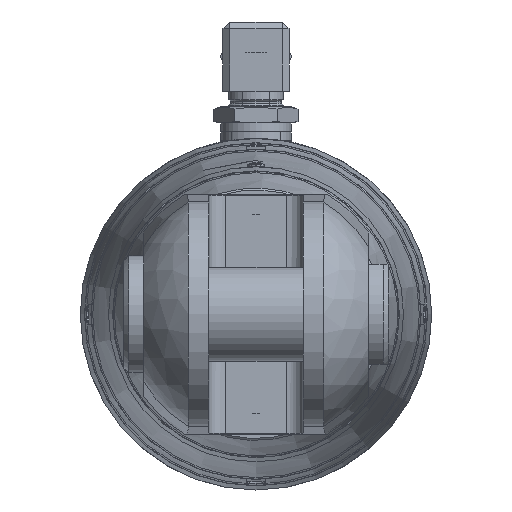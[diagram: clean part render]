
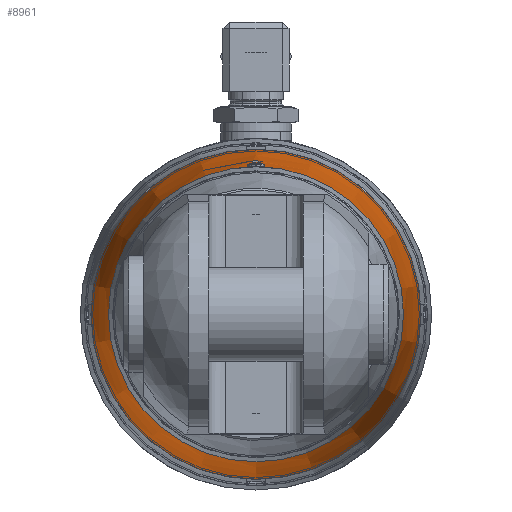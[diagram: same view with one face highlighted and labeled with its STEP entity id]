
A CAD part, left-side view. The second image highlights one B-rep face of the part: STEP entity #8961.
In plain terms, the highlighted conical face has half-angle 5 degrees and reference radius 47.66 mm.
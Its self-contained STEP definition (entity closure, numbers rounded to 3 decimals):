
#109=CONICAL_SURFACE('',#9791,47.66,0.087);
#969=LINE('',#15487,#1546);
#1546=VECTOR('',#11757,47.66);
#2286=FACE_BOUND('',#3189,.T.);
#2656=FACE_OUTER_BOUND('',#3188,.T.);
#3188=EDGE_LOOP('',(#7650,#7651,#7652,#7653,#7654,#7655));
#3189=EDGE_LOOP('',(#7656,#7657));
#3666=CIRCLE('',#9792,50.275);
#3667=CIRCLE('',#9793,50.275);
#3668=CIRCLE('',#9794,45.);
#3669=CIRCLE('',#9795,45.);
#3858=B_SPLINE_CURVE_WITH_KNOTS('',3,(#15493,#15494,#15495,#15496,#15497,
#15498,#15499,#15500,#15501,#15502),.UNSPECIFIED.,.F.,.F.,(4,2,2,2,4),(0.,
0.079,0.158,0.237,0.316),
 .UNSPECIFIED.);
#3859=B_SPLINE_CURVE_WITH_KNOTS('',3,(#15503,#15504,#15505,#15506,#15507,
#15508,#15509,#15510,#15511,#15512,#15513,#15514,#15515,#15516,#15517,#15518,
#15519,#15520,#15521,#15522,#15523,#15524,#15525,#15526,#15527,#15528),
 .UNSPECIFIED.,.F.,.F.,(4,2,2,2,2,2,2,2,2,2,2,2,4),(0.316,0.395,
0.474,0.553,0.632,0.712,
0.791,0.871,0.95,1.03,1.109,
1.189,1.268),.UNSPECIFIED.);
#4418=VERTEX_POINT('',#15482);
#4419=VERTEX_POINT('',#15483);
#4420=VERTEX_POINT('',#15486);
#4421=VERTEX_POINT('',#15488);
#4422=VERTEX_POINT('',#15491);
#4423=VERTEX_POINT('',#15492);
#5547=EDGE_CURVE('',#4418,#4419,#3666,.T.);
#5548=EDGE_CURVE('',#4419,#4418,#3667,.T.);
#5549=EDGE_CURVE('',#4419,#4420,#969,.T.);
#5550=EDGE_CURVE('',#4421,#4420,#3668,.T.);
#5551=EDGE_CURVE('',#4420,#4421,#3669,.T.);
#5552=EDGE_CURVE('',#4422,#4423,#3858,.T.);
#5553=EDGE_CURVE('',#4423,#4422,#3859,.T.);
#7650=ORIENTED_EDGE('',*,*,#5547,.F.);
#7651=ORIENTED_EDGE('',*,*,#5548,.F.);
#7652=ORIENTED_EDGE('',*,*,#5549,.T.);
#7653=ORIENTED_EDGE('',*,*,#5550,.F.);
#7654=ORIENTED_EDGE('',*,*,#5551,.F.);
#7655=ORIENTED_EDGE('',*,*,#5549,.F.);
#7656=ORIENTED_EDGE('',*,*,#5552,.T.);
#7657=ORIENTED_EDGE('',*,*,#5553,.T.);
#8961=ADVANCED_FACE('',(#2656,#2286),#109,.T.);
#9791=AXIS2_PLACEMENT_3D('',#15481,#11751,#11752);
#9792=AXIS2_PLACEMENT_3D('',#15484,#11753,#11754);
#9793=AXIS2_PLACEMENT_3D('',#15485,#11755,#11756);
#9794=AXIS2_PLACEMENT_3D('',#15489,#11758,#11759);
#9795=AXIS2_PLACEMENT_3D('',#15490,#11760,#11761);
#11751=DIRECTION('center_axis',(1.,0.,0.));
#11752=DIRECTION('ref_axis',(0.,0.,
1.));
#11753=DIRECTION('center_axis',(1.,0.,0.));
#11754=DIRECTION('ref_axis',(0.,0.,
-1.));
#11755=DIRECTION('center_axis',(1.,0.,0.));
#11756=DIRECTION('ref_axis',(0.,0.,
-1.));
#11757=DIRECTION('',(-0.996,0.,0.087));
#11758=DIRECTION('center_axis',(-1.,0.,0.));
#11759=DIRECTION('ref_axis',(0.,0.,
-1.));
#11760=DIRECTION('center_axis',(-1.,0.,0.));
#11761=DIRECTION('ref_axis',(0.,0.,
-1.));
#15481=CARTESIAN_POINT('Origin',(-678.398,0.,
0.));
#15482=CARTESIAN_POINT('',(-648.498,0.,50.275));
#15483=CARTESIAN_POINT('',(-648.498,0.,-50.275));
#15484=CARTESIAN_POINT('Origin',(-648.498,0.,
0.));
#15485=CARTESIAN_POINT('Origin',(-648.498,0.,
0.));
#15486=CARTESIAN_POINT('',(-708.796,0.,-45.));
#15487=CARTESIAN_POINT('',(-678.398,0.,-47.659));
#15488=CARTESIAN_POINT('',(-708.796,0.,45.));
#15489=CARTESIAN_POINT('Origin',(-708.796,0.,
0.));
#15490=CARTESIAN_POINT('Origin',(-708.796,0.,
0.));
#15491=CARTESIAN_POINT('',(-690.508,-2.1,46.553));
#15492=CARTESIAN_POINT('',(-692.6,0.,46.417));
#15493=CARTESIAN_POINT('Ctrl Pts',(-690.508,-2.1,
46.553));
#15494=CARTESIAN_POINT('Ctrl Pts',(-690.771,-2.099,
46.53));
#15495=CARTESIAN_POINT('Ctrl Pts',(-691.051,-2.046,46.508));
#15496=CARTESIAN_POINT('Ctrl Pts',(-691.567,-1.83,
46.471));
#15497=CARTESIAN_POINT('Ctrl Pts',(-691.803,-1.668,46.457));
#15498=CARTESIAN_POINT('Ctrl Pts',(-692.174,-1.295,
46.437));
#15499=CARTESIAN_POINT('Ctrl Pts',(-692.334,-1.06,
46.429));
#15500=CARTESIAN_POINT('Ctrl Pts',(-692.548,-0.543,
46.419));
#15501=CARTESIAN_POINT('Ctrl Pts',(-692.6,-0.263,46.417));
#15502=CARTESIAN_POINT('Ctrl Pts',(-692.6,0.,46.417));
#15503=CARTESIAN_POINT('Ctrl Pts',(-692.6,0.,46.417));
#15504=CARTESIAN_POINT('Ctrl Pts',(-692.6,0.263,46.417));
#15505=CARTESIAN_POINT('Ctrl Pts',(-692.548,0.543,
46.419));
#15506=CARTESIAN_POINT('Ctrl Pts',(-692.334,1.06,46.429));
#15507=CARTESIAN_POINT('Ctrl Pts',(-692.174,1.295,46.437));
#15508=CARTESIAN_POINT('Ctrl Pts',(-691.803,1.668,46.457));
#15509=CARTESIAN_POINT('Ctrl Pts',(-691.567,1.83,46.471));
#15510=CARTESIAN_POINT('Ctrl Pts',(-691.051,2.046,46.508));
#15511=CARTESIAN_POINT('Ctrl Pts',(-690.771,2.099,46.53));
#15512=CARTESIAN_POINT('Ctrl Pts',(-690.244,2.101,46.576));
#15513=CARTESIAN_POINT('Ctrl Pts',(-689.962,2.049,46.603));
#15514=CARTESIAN_POINT('Ctrl Pts',(-689.443,1.836,46.657));
#15515=CARTESIAN_POINT('Ctrl Pts',(-689.205,1.675,46.684));
#15516=CARTESIAN_POINT('Ctrl Pts',(-688.831,1.302,46.729));
#15517=CARTESIAN_POINT('Ctrl Pts',(-688.669,1.065,46.75));
#15518=CARTESIAN_POINT('Ctrl Pts',(-688.453,0.547,
46.777));
#15519=CARTESIAN_POINT('Ctrl Pts',(-688.4,0.265,46.784));
#15520=CARTESIAN_POINT('Ctrl Pts',(-688.4,-0.265,46.784));
#15521=CARTESIAN_POINT('Ctrl Pts',(-688.453,-0.547,
46.777));
#15522=CARTESIAN_POINT('Ctrl Pts',(-688.669,-1.065,
46.75));
#15523=CARTESIAN_POINT('Ctrl Pts',(-688.831,-1.302,46.729));
#15524=CARTESIAN_POINT('Ctrl Pts',(-689.205,-1.675,
46.684));
#15525=CARTESIAN_POINT('Ctrl Pts',(-689.443,-1.836,
46.657));
#15526=CARTESIAN_POINT('Ctrl Pts',(-689.962,-2.049,
46.603));
#15527=CARTESIAN_POINT('Ctrl Pts',(-690.244,-2.101,46.576));
#15528=CARTESIAN_POINT('Ctrl Pts',(-690.508,-2.1,
46.553));
